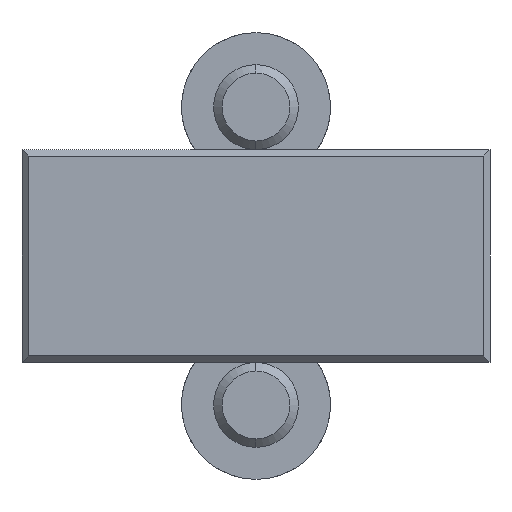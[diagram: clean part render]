
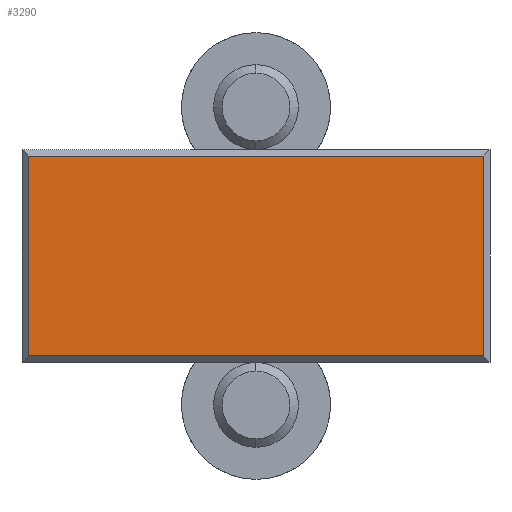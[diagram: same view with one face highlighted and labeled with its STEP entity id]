
A CAD part, front view. The second image highlights one B-rep face of the part: STEP entity #3290.
In plain terms, the highlighted planar face has unit normal (0, -1, 0).
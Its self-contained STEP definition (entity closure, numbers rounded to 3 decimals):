
#29 = CARTESIAN_POINT ( 'NONE',  ( 0., -8.5, 0. ) ) ;
#31 = PLANE ( 'NONE',  #1492 ) ;
#34 = DIRECTION ( 'NONE',  ( 0., -1., 0. ) ) ;
#35 = DIRECTION ( 'NONE',  ( 0., 0., -1. ) ) ;
#311 = FACE_OUTER_BOUND ( 'NONE', #392, .T. ) ;
#392 = EDGE_LOOP ( 'NONE', ( #3121, #3122, #3123, #3124 ) ) ;
#1400 = VECTOR ( 'NONE', #3441, 1000. ) ;
#1405 = VECTOR ( 'NONE', #3434, 1000. ) ;
#1406 = LINE ( 'NONE', #3436, #1400 ) ;
#1408 = LINE ( 'NONE', #3432, #1405 ) ;
#1409 = VECTOR ( 'NONE', #3429, 1000. ) ;
#1411 = VECTOR ( 'NONE', #3428, 1000. ) ;
#1414 = LINE ( 'NONE', #3426, #1411 ) ;
#1420 = LINE ( 'NONE', #3419, #1409 ) ;
#1492 = AXIS2_PLACEMENT_3D ( 'NONE', #29, #34, #35 ) ;
#1835 = CARTESIAN_POINT ( 'NONE',  ( -0.3, -8.5, -4.7 ) ) ;
#1854 = CARTESIAN_POINT ( 'NONE',  ( -21.7, -8.5, 4.7 ) ) ;
#1864 = CARTESIAN_POINT ( 'NONE',  ( -21.7, -8.5, -4.7 ) ) ;
#1896 = CARTESIAN_POINT ( 'NONE',  ( -0.3, -8.5, 4.7 ) ) ;
#2416 = EDGE_CURVE ( 'NONE', #2876, #2954, #1414, .T. ) ;
#2417 = EDGE_CURVE ( 'NONE', #2922, #2876, #1420, .T. ) ;
#2419 = EDGE_CURVE ( 'NONE', #2912, #2954, #1408, .T. ) ;
#2422 = EDGE_CURVE ( 'NONE', #2912, #2922, #1406, .T. ) ;
#2876 = VERTEX_POINT ( 'NONE', #1835 ) ;
#2912 = VERTEX_POINT ( 'NONE', #1854 ) ;
#2922 = VERTEX_POINT ( 'NONE', #1864 ) ;
#2954 = VERTEX_POINT ( 'NONE', #1896 ) ;
#3121 = ORIENTED_EDGE ( 'NONE', *, *, #2417, .T. ) ;
#3122 = ORIENTED_EDGE ( 'NONE', *, *, #2416, .T. ) ;
#3123 = ORIENTED_EDGE ( 'NONE', *, *, #2419, .F. ) ;
#3124 = ORIENTED_EDGE ( 'NONE', *, *, #2422, .T. ) ;
#3290 = ADVANCED_FACE ( 'NONE', ( #311 ), #31, .T. ) ;
#3419 = CARTESIAN_POINT ( 'NONE',  ( 0., -8.5, -4.7 ) ) ;
#3426 = CARTESIAN_POINT ( 'NONE',  ( -0.3, -8.5, 0. ) ) ;
#3428 = DIRECTION ( 'NONE',  ( 0., 0., 1. ) ) ;
#3429 = DIRECTION ( 'NONE',  ( 1., 0., 0. ) ) ;
#3432 = CARTESIAN_POINT ( 'NONE',  ( 0., -8.5, 4.7 ) ) ;
#3434 = DIRECTION ( 'NONE',  ( 1., 0., 0. ) ) ;
#3436 = CARTESIAN_POINT ( 'NONE',  ( -21.7, -8.5, 0. ) ) ;
#3441 = DIRECTION ( 'NONE',  ( 0., 0., -1. ) ) ;
